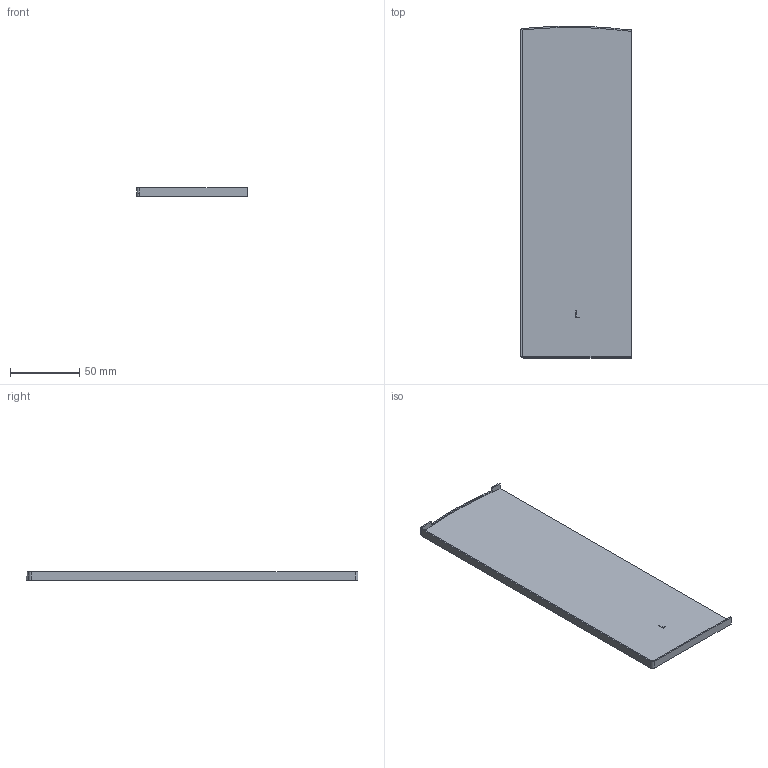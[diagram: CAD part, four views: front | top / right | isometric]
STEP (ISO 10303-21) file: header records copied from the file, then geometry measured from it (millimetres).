
FILE_DESCRIPTION(/* description */ ('TURBOFLEX TL-3621 endcap left with covercap aluminum mill finish'),/* implementation_level */ '2;1');
FILE_NAME(/* name */ '1036214101x.stp',/* time_stamp */ '2025-11-13T10:32:10+01:00',/* author */ ('nethmini'),/* organization */ (''),/* preprocessor_version */ 'ST-DEVELOPER v19.2',/* originating_system */ 'Autodesk Inventor 2024',/* authorisation */ '');
FILE_SCHEMA (('AUTOMOTIVE_DESIGN { 1 0 10303 214 3 1 1 }'));
Length unit declared in the file: millimetre
Products named in the file (1): 10362141010
Bounding box: 80 x 239.83 x 6 mm (x, y, z)
Volume: 39627.4 mm3; surface area: 42305.4 mm2
Topology: 1 solids, 1 shells, 31 faces, 80 edges, 52 vertices
Faces by surface type: plane 23, cylinder 8
Entity records: 982 total; most frequent: CARTESIAN_POINT 164, ORIENTED_EDGE 160, DIRECTION 160, EDGE_CURVE 80, LINE 64, VECTOR 64, VERTEX_POINT 52, AXIS2_PLACEMENT_3D 48
